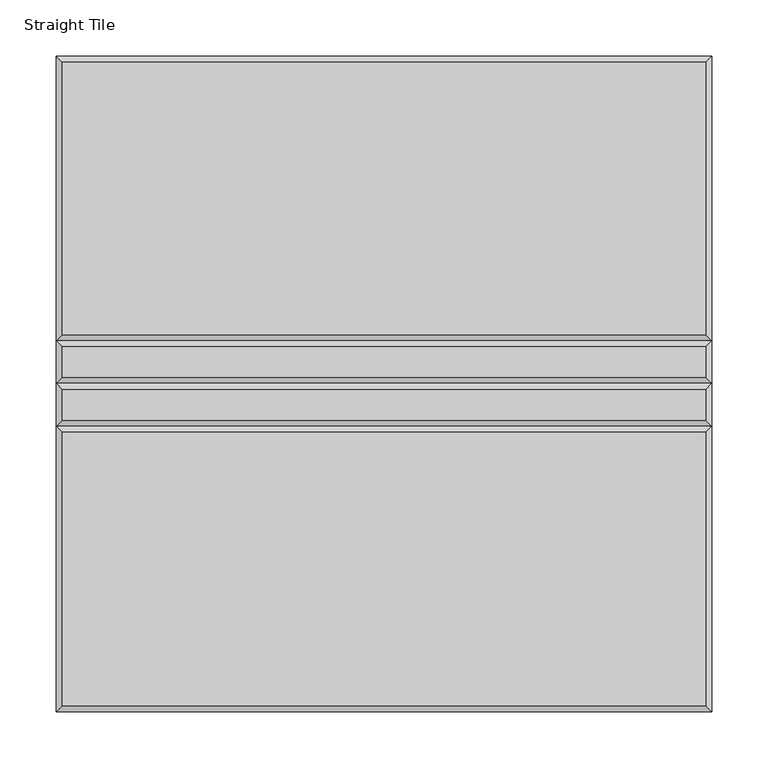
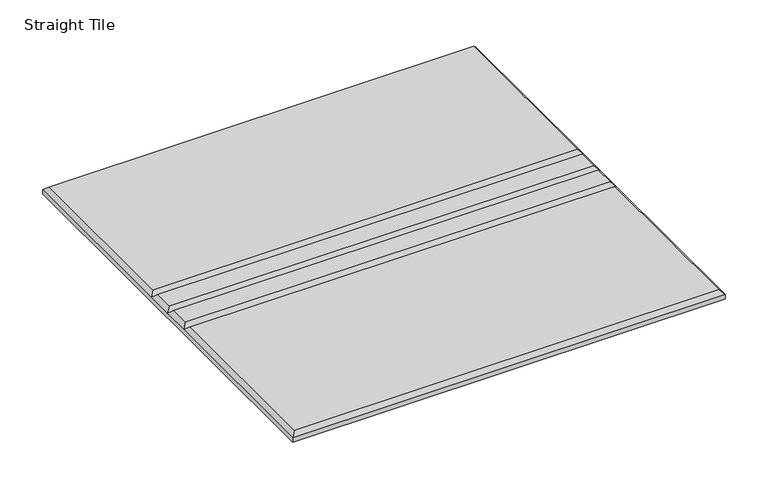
"""IFC4 building model written with IfcOpenShell, lengths in millimetres: proxy geometry, Wall-Panel-Kirei-EchoPanel-Echotile-Racetrack : Straight Tile."""

from ifc_helpers import new_model, si_unit, origin, place, context, project, spatial, faceted_brep, source, transform, mapped, element, save


def straight_tile_4edfceb1(model_context):
    return source(origin(), model_context, "Body", "Brep", [
        faceted_brep([(-30.9054687, 286.5945312, 12.0054687), (-604.0945312, 286.5945312, 12.0054687), (-604.0945312, 44.0630399, 12.0054687), (-30.9054687, 44.0630399, 12.0054687), (-604.0945312, -286.5945313, 12.0054687), (-30.9054687, -286.5945313, 12.0054687), (-30.9054687, -43.1478976, 12.0054687), (-604.0945312, -43.1478976, 12.0054687), (-30.9054687, 5.9630399, 12.0054687), (-30.9054687, 33.0521024, 12.0054687), (-604.0945312, 33.0521024, 12.0054687), (-604.0945312, 5.9630399, 12.0054687), (-30.9054687, -32.1369601, 12.0054687), (-30.9054687, -5.0478976, 12.0054687), (-604.0945312, -5.0478976, 12.0054687), (-604.0945312, -32.1369601, 12.0054687), (-25.4, 292.1, 0.0), (-25.4, -292.1, 0.0), (-609.6, -292.1, 0.0), (-609.6, 292.1, 0.0), (-609.6, 292.1, 6.5), (-25.4, 292.1, 6.5), (-609.6, -292.1, 6.5), (-609.6, -37.6424289, 6.5), (-609.6, 0.4575711, 6.5), (-609.6, 38.5575711, 6.5), (-25.4, -292.1, 6.5), (-25.4, 38.5575711, 6.5), (-25.4, 0.4575711, 6.5), (-25.4, -37.6424289, 6.5)], [[[0, 1, 2, 3]], [[4, 5, 6, 7]], [[8, 9, 10, 11]], [[12, 13, 14, 15]], [[16, 17, 18, 19]], [[16, 19, 20, 21]], [[19, 18, 22, 23, 24, 25, 20]], [[18, 17, 26, 22]], [[17, 16, 21, 27, 28, 29, 26]], [[9, 8, 28, 27]], [[13, 12, 29, 28]], [[21, 0, 3, 27]], [[5, 26, 29, 6]], [[0, 21, 20, 1]], [[11, 10, 25, 24]], [[15, 14, 24, 23]], [[1, 20, 25, 2]], [[22, 4, 7, 23]], [[26, 5, 4, 22]], [[27, 25, 10, 9]], [[25, 27, 3, 2]], [[28, 24, 14, 13]], [[24, 28, 8, 11]], [[29, 23, 7, 6]], [[23, 29, 12, 15]]]),
    ])


if __name__ == "__main__":
    model = new_model("IFC4")
    model_context = context("Model", 3, world=origin())
    ifc_project = project(units=[si_unit("LENGTHUNIT", "METRE", prefix="MILLI")], contexts=[model_context])
    site = spatial("IfcSite", under=ifc_project)
    building = spatial("IfcBuilding", under=site)
    placement = place(None, origin())
    straight_tile_shape = straight_tile_4edfceb1(model_context)
    element("IfcBuildingElementProxy", 1, Name="Wall-Panel-Kirei-EchoPanel-Echotile-Racetrack : Straight Tile", ObjectType="Wall-Panel-Kirei-EchoPanel-Echotile-Racetrack : Straight Tile", at=placement, inside=building, context=model_context, shape_type="MappedRepresentation", body=[
        mapped(straight_tile_shape, transform((0.0, 0.0, 0.0), x_axis=(1.0, 0.0, 0.0), y_axis=(0.0, 1.0, 0.0), z_axis=(0.0, 0.0, 1.0))),
    ])
    save(model, "model.ifc")
